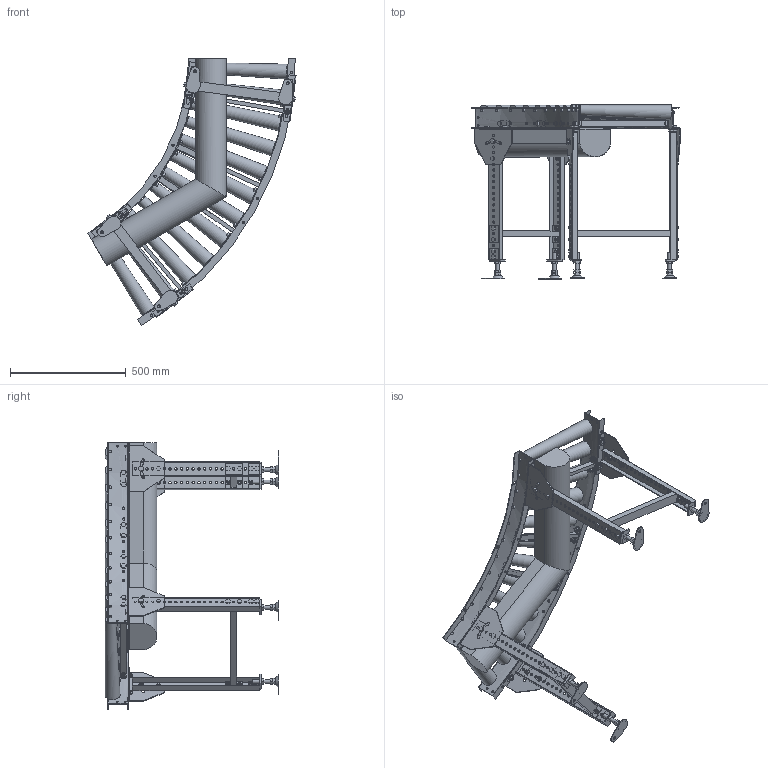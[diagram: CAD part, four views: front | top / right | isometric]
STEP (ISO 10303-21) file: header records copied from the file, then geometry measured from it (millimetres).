
FILE_DESCRIPTION( (''), '2;1');
FILE_NAME ('WEB-MCD-50-400-100-60°-C9.stp','2025-06-26T16:55:08',(''),(''),'spGate 20.6.2 (****-****-****-****)','','');
FILE_SCHEMA (('AUTOMOTIVE_DESIGN'));
Length unit declared in the file: millimetre
Products named in the file (32): WEB-MCD-50-400-100-60_-C9; TEMP_X_T-prt0; TEMP_X_T-prt1; TEMP_X_T-prt2; TEMP_X_T-prt3; TEMP_X_T-prt4; TEMP_X_T-prt5; TEMP_X_T-prt6; TEMP_X_T-prt7; TEMP_X_T-prt8; TEMP_X_T-prt9; TEMP_X_T-prt10; TEMP_X_T-prt11; TEMP_X_T-prt12; TEMP_X_T-prt13; TEMP_X_T-prt14; TEMP_X_T-prt15; TEMP_X_T-prt16; TEMP_X_T-prt17; TEMP_X_T-prt18; TEMP_X_T-prt19; TEMP_X_T-prt20; TEMP_X_T-prt21; TEMP_X_T-prt22; TEMP_X_T-prt23; TEMP_X_T-prt24; TEMP_X_T-prt25; TEMP_X_T-prt26; TEMP_X_T-prt27; TEMP_X_T-prt28; TEMP_X_T-prt29; TEMP_X_T-prt30
Assembly tree (31 placements, depth 2):
  WEB-MCD-50-400-100-60_-C9
    TEMP_X_T-prt0
    TEMP_X_T-prt1
    TEMP_X_T-prt2
    TEMP_X_T-prt3
    TEMP_X_T-prt4
    TEMP_X_T-prt5
    TEMP_X_T-prt6
    TEMP_X_T-prt7
    TEMP_X_T-prt8
    TEMP_X_T-prt9
    TEMP_X_T-prt10
    TEMP_X_T-prt11
    TEMP_X_T-prt12
    TEMP_X_T-prt13
    TEMP_X_T-prt14
    TEMP_X_T-prt15
    TEMP_X_T-prt16
    TEMP_X_T-prt17
    TEMP_X_T-prt18
    TEMP_X_T-prt19
    TEMP_X_T-prt20
    TEMP_X_T-prt21
    TEMP_X_T-prt22
    TEMP_X_T-prt23
    TEMP_X_T-prt24
    TEMP_X_T-prt25
    TEMP_X_T-prt26
    TEMP_X_T-prt27
    TEMP_X_T-prt28
    TEMP_X_T-prt29
    TEMP_X_T-prt30
Bounding box: 898.03 x 750.24 x 1151.81 mm (x, y, z)
Volume: 31261919.2 mm3; surface area: 3211921.3 mm2
Topology: 31 solids, 51 shells, 2202 faces, 5376 edges, 3472 vertices
Faces by surface type: plane 1823, cylinder 363, bspline 16
Full cylindrical faces by diameter (mm): 8.5 x8, 10 x60, 10.5 x92, 11 x14, 12 x24, 13 x4, 14 x7, 16 x4, 18.4 x40, 18.5 x8, 21 x28
Entity records: 113823 total; most frequent: CARTESIAN_POINT 16089, DIRECTION 11036, ORIENTED_EDGE 10752, COLOUR_RGB 7609, PRESENTATION_STYLE_ASSIGNMENT 7609, STYLED_ITEM 7609, EDGE_CURVE 5376, DRAUGHTING_PRE_DEFINED_CURVE_FONT 5376
